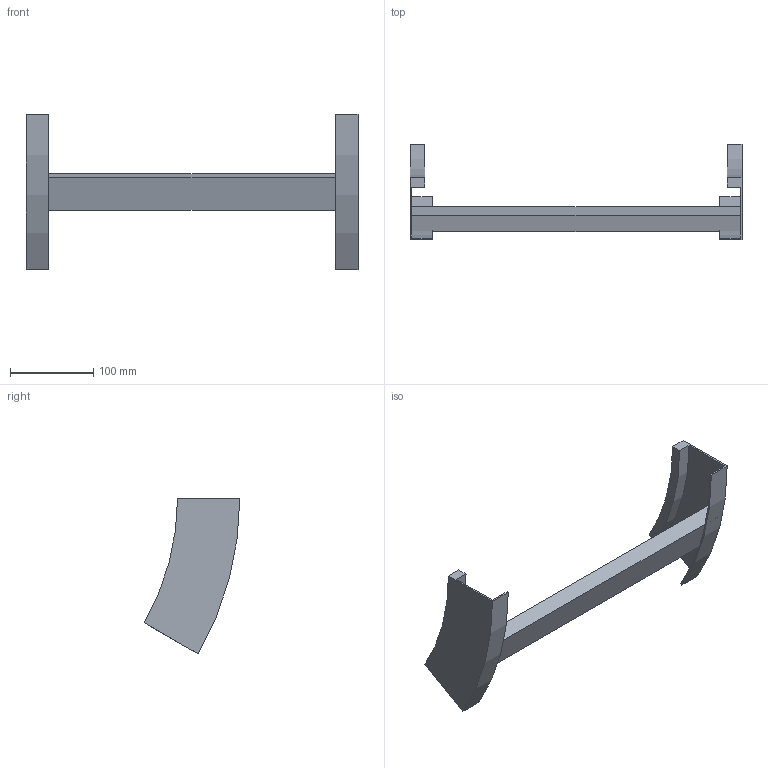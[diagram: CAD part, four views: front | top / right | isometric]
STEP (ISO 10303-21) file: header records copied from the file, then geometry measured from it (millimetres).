
FILE_DESCRIPTION (( 'STEP AP214' ), '1' );
FILE_NAME ('B2X32B3C400XX.step', '2025-03-20T10:02:49', ( '' ), ( '' ), 'SwSTEP 2.0', 'SolidWorks 2023', '' );
FILE_SCHEMA (( 'AUTOMOTIVE_DESIGN' ));
Length unit declared in the file: millimetre
Products named in the file (3): B2_LONGH.SALITA_30°_H75_R300; B2X32B3C400XX; TRAVERSINO_400
Assembly tree (3 placements, depth 2):
  B2X32B3C400XX
    B2_LONGH.SALITA_30°_H75_R300  x2
    TRAVERSINO_400
Bounding box: 400 x 115.19 x 187.5 mm (x, y, z)
Volume: 454881.9 mm3; surface area: 135368.8 mm2
Topology: 3 solids, 3 shells, 26 faces, 60 edges, 40 vertices
Faces by surface type: plane 18, cylinder 8
Entity records: 544 total; most frequent: DIRECTION 88, CARTESIAN_POINT 82, ORIENTED_EDGE 72, EDGE_CURVE 36, AXIS2_PLACEMENT_3D 30, LINE 28, VECTOR 28, VERTEX_POINT 24
